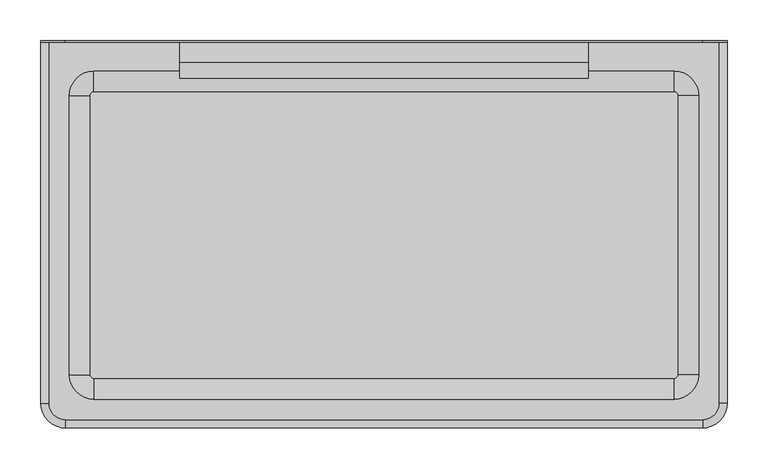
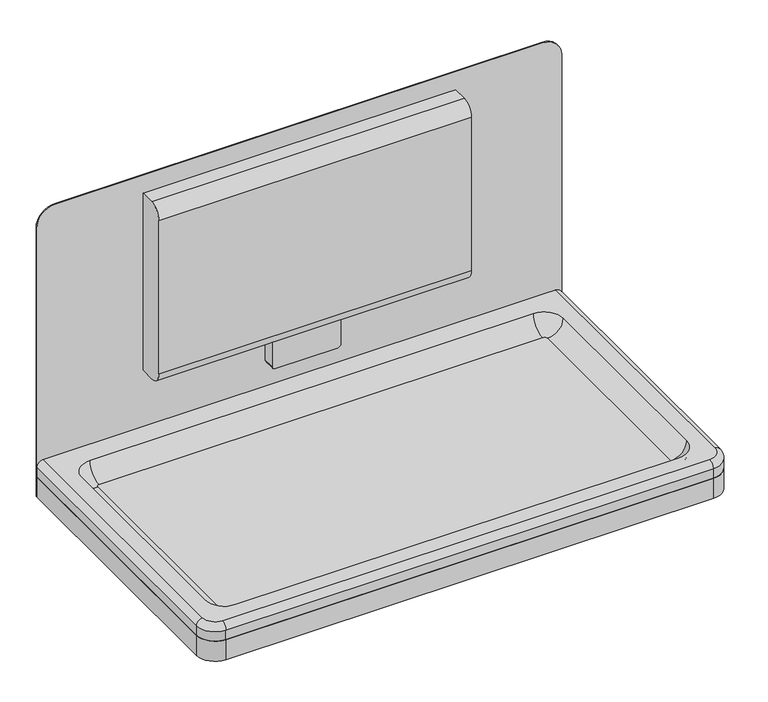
"""IFC4 building model written with IfcOpenShell, lengths in millimetres: proxy geometry, Baby Change Station_Metlam_Horizontal_Surface Mounted_Stainless Steel : 941w x 499d x 588h (ML_8200SM)."""

from ifc_helpers import new_model, si_unit, point, frame, frame_2d, origin, place, context, project, spatial, polyline, circle_curve, ellipse_curve, trimmed, segment, composite_curve, outline, extrude, source, transform, mapped, element, save
from ifc_brep_helpers import plane_surface, cylinder_surface, revolved_surface, advanced_brep


def specialty_equipment_f52764ad(model_context):
    return source(origin(), model_context, "Body", "SolidModel", [
        extrude(outline(composite_curve([segment(polyline([(1175.0, -420.0), (720.0, -420.0), (720.0, 420.0), (1175.0, 420.0)]), True, "CONTINUOUS"), segment(trimmed(circle_curve(frame_2d((1175.0, 390.0)), 30.0), [point((1175.0, 420.0))], [point((1205.0, 390.0))], False, "CARTESIAN"), True, "CONTINUOUS"), segment(polyline([(1205.0, 390.0), (1205.0, -390.0)]), True, "CONTINUOUS"), segment(trimmed(circle_curve(frame_2d((1175.0, -390.0)), 30.0), [point((1205.0, -390.0))], [point((1175.0, -420.0))], False, "CARTESIAN"), True, "CONTINUOUS")], self_intersect=False)), frame((0.0, -27.0, 0.0), z_axis=(0.0, 1.0, 0.0), x_axis=(0.0, 0.0, 1.0)), (0.0, 0.0, 1.0), 2.0),
        extrude(outline(composite_curve([segment(polyline([(420.0, -27.0), (420.0, -469.0)]), True, "CONTINUOUS"), segment(trimmed(circle_curve(frame_2d((390.0, -469.0)), 30.0), [point((420.0, -469.0))], [point((390.0, -499.0))], False, "CARTESIAN"), True, "CONTINUOUS"), segment(polyline([(390.0, -499.0), (-390.0, -499.0)]), True, "CONTINUOUS"), segment(trimmed(circle_curve(frame_2d((-390.0, -469.0)), 30.0), [point((-390.0, -499.0))], [point((-420.0, -469.0))], False, "CARTESIAN"), True, "CONTINUOUS"), segment(polyline([(-420.0, -469.0), (-420.0, -27.0), (420.0, -27.0)]), True, "CONTINUOUS")], self_intersect=False)), frame((0.0, 0.0, 720.0), z_axis=(0.0, 0.0, 1.0), x_axis=(1.0, 0.0, 0.0)), (0.0, 0.0, 1.0), 34.0),
        advanced_brep(
        [(60.0, -47.0, 875.0), (-60.0, -47.0, 875.0), (-55.0, -47.0, 870.0), (-55.0, -47.0, 825.0), (-50.0, -47.0, 820.0), (50.0, -47.0, 820.0), (55.0, -47.0, 825.0), (55.0, -47.0, 870.0), (60.0, -27.0, 875.0), (55.0, -27.0, 870.0), (55.0, -27.0, 825.0), (50.0, -27.0, 820.0), (-50.0, -27.0, 820.0), (-55.0, -27.0, 825.0), (-55.0, -27.0, 870.0), (-60.0, -27.0, 875.0)],
        [
            (0, 1),
            (1, 2, circle_curve(frame((-60.0, -47.0, 870.0), z_axis=(0.0, 1.0, 0.0), x_axis=(1.0, 0.0, 0.0)), 5.0)),
            (2, 3),
            (3, 4, circle_curve(frame((-50.0, -47.0, 825.0), z_axis=(0.0, -1.0, 0.0), x_axis=(1.0, 0.0, 0.0)), 5.0)),
            (4, 5),
            (5, 6, circle_curve(frame((50.0, -47.0, 825.0), z_axis=(0.0, -1.0, 0.0), x_axis=(1.0, 0.0, 0.0)), 5.0)),
            (6, 7),
            (7, 0, circle_curve(frame((60.0, -47.0, 870.0), z_axis=(0.0, 1.0, 0.0), x_axis=(1.0, 0.0, 0.0)), 5.0)),
            (8, 9, circle_curve(frame((60.0, -27.0, 870.0), z_axis=(0.0, -1.0, 0.0), x_axis=(1.0, 0.0, 0.0)), 5.0)),
            (9, 10),
            (10, 11, circle_curve(frame((50.0, -27.0, 825.0), z_axis=(0.0, 1.0, 0.0), x_axis=(1.0, 0.0, 0.0)), 5.0)),
            (11, 12),
            (12, 13, circle_curve(frame((-50.0, -27.0, 825.0), z_axis=(0.0, 1.0, 0.0), x_axis=(1.0, 0.0, 0.0)), 5.0)),
            (13, 14),
            (14, 15, circle_curve(frame((-60.0, -27.0, 870.0), z_axis=(0.0, -1.0, 0.0), x_axis=(1.0, 0.0, 0.0)), 5.0)),
            (15, 8),
            (0, 8),
            (15, 1),
            (2, 14),
            (13, 3),
            (4, 12),
            (11, 5),
            (6, 10),
            (9, 7),
        ],
        [
            plane_surface(frame((-60.0, -47.0, 875.0), z_axis=(0.0, -1.0, 0.0), x_axis=(-1.0, 0.0, 0.0))),
            plane_surface(frame((-60.0, -27.0, 875.0), z_axis=(0.0, 1.0, 0.0), x_axis=(1.0, 0.0, 0.0))),
            plane_surface(frame((60.0, -47.0, 875.0), z_axis=(0.0, 0.0, 1.0), x_axis=(0.0, 1.0, 0.0))),
            plane_surface(frame((-55.0, -47.0, 870.0), z_axis=(-1.0, 0.0, 0.0), x_axis=(0.0, 1.0, 0.0))),
            plane_surface(frame((-50.0, -47.0, 820.0), z_axis=(0.0, 0.0, -1.0), x_axis=(0.0, 1.0, 0.0))),
            plane_surface(frame((55.0, -47.0, 825.0), z_axis=(1.0, 0.0, 0.0), x_axis=(0.0, 1.0, 0.0))),
            revolved_surface(polyline([(-55.0, -27.0, 870.0), (-55.0, -47.0, 870.0)]), (-60.0, -27.0, 870.0), (0.0, 1.0, 0.0)),
            revolved_surface(polyline([(65.0, -27.0, 870.0), (65.0, -47.0, 870.0)]), (60.0, -27.0, 870.0), (0.0, 1.0, 0.0)),
            cylinder_surface(frame((-50.0, -27.0, 825.0), z_axis=(0.0, -1.0, 0.0), x_axis=(1.0, 0.0, 0.0)), 5.0),
            cylinder_surface(frame((50.0, -27.0, 825.0), z_axis=(0.0, -1.0, 0.0), x_axis=(1.0, 0.0, 0.0)), 5.0),
        ],
        [
            (0, [[1, 2, 3, 4, 5, 6, 7, 8]]),
            (1, [[9, 10, 11, 12, 13, 14, 15, 16]]),
            (2, [[-1, 17, -16, 18]]),
            (3, [[-3, 19, -14, 20]]),
            (4, [[-5, 21, -12, 22]]),
            (5, [[-7, 23, -10, 24]]),
            (6, [[-2, -18, -15, -19]]),
            (7, [[-8, -24, -9, -17]]),
            (8, [[-4, -20, -13, -21]]),
            (9, [[-6, -22, -11, -23]]),
        ],
    ),
        extrude(outline(composite_curve([segment(polyline([(-27.0, 1175.0), (-27.0, 875.0), (-51.0, 875.0)]), True, "CONTINUOUS"), segment(trimmed(circle_curve(frame_2d((-51.0, 895.0)), 20.0), [point((-51.0, 875.0))], [point((-71.0, 895.0))], False, "CARTESIAN"), True, "CONTINUOUS"), segment(polyline([(-71.0, 895.0), (-71.0, 1155.0)]), True, "CONTINUOUS"), segment(trimmed(circle_curve(frame_2d((-51.0, 1155.0)), 20.0), [point((-71.0, 1155.0))], [point((-51.0, 1175.0))], False, "CARTESIAN"), True, "CONTINUOUS"), segment(polyline([(-51.0, 1175.0), (-27.0, 1175.0)]), True, "CONTINUOUS")], self_intersect=False)), frame((-250.0, 0.0, 0.0), z_axis=(1.0, 0.0, 0.0), x_axis=(0.0, 1.0, 0.0)), (0.0, 0.0, 1.0), 500.0),
        advanced_brep(
        [(410.0, -27.0, 780.0), (-410.0, -27.0, 780.0), (-410.0, -469.0, 780.0), (-390.0, -489.0, 780.0), (390.0, -489.0, 780.0), (410.0, -469.0, 780.0), (385.0367705, -434.0, 780.0), (355.0, -464.0367705, 780.0), (-355.0, -464.0367705, 780.0), (-385.0367705, -434.0, 780.0), (-385.0367705, -92.0, 780.0), (-355.0, -61.9632295, 780.0), (355.0, -61.9632295, 780.0), (385.0367705, -92.0, 780.0), (420.0, -27.0, 754.0), (420.0, -469.0, 754.0), (390.0, -499.0, 754.0), (-390.0, -499.0, 754.0), (-420.0, -469.0, 754.0), (-420.0, -27.0, 754.0), (-420.0, -27.0, 770.0), (420.0, -27.0, 770.0), (-420.0, -469.0, 770.0), (390.0, -499.0, 770.0), (-390.0, -499.0, 770.0), (420.0, -469.0, 770.0), (360.0367705, -434.0, 755.0), (355.0, -439.0367705, 755.0), (360.0367705, -92.0, 755.0), (355.0, -86.9632295, 755.0), (-355.0, -86.9632295, 755.0), (-360.0367705, -92.0, 755.0), (-360.0367705, -434.0, 755.0), (-355.0, -439.0367705, 755.0)],
        [
            (0, 1),
            (1, 2),
            (2, 3, circle_curve(frame((-390.0, -469.0, 780.0), z_axis=(0.0, 0.0, 1.0), x_axis=(-1.0, 0.0, 0.0)), 20.0)),
            (3, 4),
            (4, 5, circle_curve(frame((390.0, -469.0, 780.0), z_axis=(0.0, 0.0, 1.0), x_axis=(0.0, -1.0, 0.0)), 20.0)),
            (5, 0),
            (6, 7, circle_curve(frame((355.0, -434.0, 780.0), z_axis=(0.0, 0.0, -1.0), x_axis=(0.0, -1.0, 0.0)), 30.0367705)),
            (7, 8),
            (8, 9, circle_curve(frame((-355.0, -434.0, 780.0), z_axis=(0.0, 0.0, -1.0), x_axis=(-1.0, 0.0, 0.0)), 30.0367705)),
            (9, 10),
            (10, 11, circle_curve(frame((-355.0, -92.0, 780.0), z_axis=(0.0, 0.0, -1.0), x_axis=(0.0, 1.0, 0.0)), 30.0367705)),
            (11, 12),
            (12, 13, circle_curve(frame((355.0, -92.0, 780.0), z_axis=(0.0, 0.0, -1.0), x_axis=(1.0, 0.0, 0.0)), 30.0367705)),
            (13, 6),
            (14, 15),
            (15, 16, circle_curve(frame((390.0, -469.0, 754.0), z_axis=(0.0, 0.0, -1.0), x_axis=(0.0, -1.0, 0.0)), 30.0)),
            (16, 17),
            (17, 18, circle_curve(frame((-390.0, -469.0, 754.0), z_axis=(0.0, 0.0, -1.0), x_axis=(0.0, -1.0, 0.0)), 30.0)),
            (18, 19),
            (19, 14),
            (19, 20),
            (20, 1, circle_curve(frame((-410.0, -27.0, 770.0), z_axis=(0.0, 1.0, 0.0), x_axis=(1.0, 0.0, 0.0)), 10.0)),
            (0, 21, circle_curve(frame((410.0, -27.0, 770.0), z_axis=(0.0, 1.0, 0.0), x_axis=(-1.0, 0.0, 0.0)), 10.0)),
            (21, 14),
            (18, 22),
            (22, 20),
            (16, 23),
            (23, 24),
            (24, 17),
            (21, 25),
            (25, 15),
            (24, 22, circle_curve(frame((-390.0, -469.0, 770.0), z_axis=(0.0, 0.0, -1.0), x_axis=(0.0, -1.0, 0.0)), 30.0)),
            (25, 23, circle_curve(frame((390.0, -469.0, 770.0), z_axis=(0.0, 0.0, -1.0), x_axis=(0.0, -1.0, 0.0)), 30.0)),
            (6, 26, circle_curve(frame((360.0367705, -434.0, 780.0), z_axis=(0.0, 1.0, 0.0), x_axis=(-1.0, 0.0, 0.0)), 25.0)),
            (26, 27, circle_curve(frame((355.0, -434.0, 755.0), z_axis=(0.0, 0.0, -1.0), x_axis=(0.0, -1.0, 0.0)), 5.0367705)),
            (27, 7, circle_curve(frame((355.0, -439.0367705, 780.0), z_axis=(-1.0, 0.0, 0.0), x_axis=(0.0, 1.0, 0.0)), 25.0)),
            (13, 28, circle_curve(frame((360.0367705, -92.0, 780.0), z_axis=(0.0, 1.0, 0.0), x_axis=(-1.0, 0.0, 0.0)), 25.0)),
            (28, 26),
            (12, 29, circle_curve(frame((355.0, -86.9632295, 780.0), z_axis=(-1.0, 0.0, 0.0), x_axis=(0.0, -1.0, 0.0)), 25.0)),
            (29, 28, circle_curve(frame((355.0, -92.0, 755.0), z_axis=(0.0, 0.0, -1.0), x_axis=(1.0, 0.0, 0.0)), 5.0367705)),
            (11, 30, circle_curve(frame((-355.0, -86.9632295, 780.0), z_axis=(-1.0, 0.0, 0.0), x_axis=(0.0, -1.0, 0.0)), 25.0)),
            (30, 29),
            (10, 31, circle_curve(frame((-360.0367705, -92.0, 780.0), z_axis=(0.0, -1.0, 0.0), x_axis=(1.0, 0.0, 0.0)), 25.0)),
            (31, 30, circle_curve(frame((-355.0, -92.0, 755.0), z_axis=(0.0, 0.0, -1.0), x_axis=(0.0, 1.0, 0.0)), 5.0367705)),
            (9, 32, circle_curve(frame((-360.0367705, -434.0, 780.0), z_axis=(0.0, -1.0, 0.0), x_axis=(1.0, 0.0, 0.0)), 25.0)),
            (32, 31),
            (8, 33, circle_curve(frame((-355.0, -439.0367705, 780.0), z_axis=(1.0, 0.0, 0.0), x_axis=(0.0, 1.0, 0.0)), 25.0)),
            (33, 32, circle_curve(frame((-355.0, -434.0, 755.0), z_axis=(0.0, 0.0, -1.0), x_axis=(-1.0, 0.0, 0.0)), 5.0367705)),
            (27, 33),
            (22, 2, circle_curve(frame((-410.0, -469.0, 770.0), z_axis=(0.0, 1.0, 0.0), x_axis=(1.0, 0.0, 0.0)), 10.0)),
            (24, 3, circle_curve(frame((-390.0, -489.0, 770.0), z_axis=(-1.0, 0.0, 0.0), x_axis=(0.0, 1.0, 0.0)), 10.0)),
            (23, 4, circle_curve(frame((390.0, -489.0, 770.0), z_axis=(-1.0, 0.0, 0.0), x_axis=(0.0, 1.0, 0.0)), 10.0)),
            (25, 5, circle_curve(frame((410.0, -469.0, 770.0), z_axis=(0.0, -1.0, 0.0), x_axis=(-1.0, 0.0, 0.0)), 10.0)),
        ],
        [
            plane_surface(frame((-420.0, -27.0, 780.0), z_axis=(0.0, 0.0, 1.0), x_axis=(-1.0, 0.0, 0.0))),
            plane_surface(frame((-420.0, -27.0, 754.0), z_axis=(0.0, 0.0, -1.0), x_axis=(1.0, 0.0, 0.0))),
            plane_surface(frame((420.0, -27.0, 780.0), z_axis=(0.0, 1.0, 0.0), x_axis=(0.0, 0.0, -1.0))),
            plane_surface(frame((-420.0, -27.0, 780.0), z_axis=(-1.0, 0.0, 0.0), x_axis=(0.0, 0.0, -1.0))),
            plane_surface(frame((-390.0, -499.0, 780.0), z_axis=(0.0, -1.0, 0.0), x_axis=(0.0, 0.0, -1.0))),
            plane_surface(frame((420.0, -469.0, 780.0), z_axis=(1.0, 0.0, 0.0), x_axis=(0.0, 0.0, -1.0))),
            cylinder_surface(frame((-390.0, -469.0, 754.0), z_axis=(0.0, 0.0, 1.0), x_axis=(0.0, -1.0, 0.0)), 30.0),
            cylinder_surface(frame((390.0, -469.0, 754.0), z_axis=(0.0, 0.0, 1.0), x_axis=(0.0, -1.0, 0.0)), 30.0),
            revolved_surface(trimmed(ellipse_curve(frame((355.0, -439.0367705, 780.0), z_axis=(1.0, 0.0, 0.0), x_axis=(0.0, 1.0, 0.0)), 25.0, 25.0), [point((355.0, -464.0367705, 780.0))], [point((355.0, -439.0367705, 755.0))], True, "CARTESIAN"), (355.0, -434.0, 720.0), (0.0, 0.0, 1.0)),
            revolved_surface(polyline([(335.0367705, -434.0, 780.0), (335.0367705, -92.0, 780.0)]), (360.0367705, -434.0, 780.0), (0.0, -1.0, 0.0)),
            revolved_surface(trimmed(ellipse_curve(frame((360.0367705, -92.0, 780.0), z_axis=(0.0, 1.0, 0.0), x_axis=(-1.0, 0.0, 0.0)), 25.0, 25.0), [point((385.0367705, -92.0, 780.0))], [point((360.0367705, -92.0, 755.0))], True, "CARTESIAN"), (355.0, -92.0, 720.0), (0.0, 0.0, 1.0)),
            revolved_surface(polyline([(355.0, -111.9632295, 780.0), (-355.0, -111.9632295, 780.0)]), (355.0, -86.9632295, 780.0), (1.0, 0.0, 0.0)),
            revolved_surface(trimmed(ellipse_curve(frame((-355.0, -86.9632295, 780.0), z_axis=(-1.0, 0.0, 0.0), x_axis=(0.0, -1.0, 0.0)), 25.0, 25.0), [point((-355.0, -61.9632295, 780.0))], [point((-355.0, -86.9632295, 755.0))], True, "CARTESIAN"), (-355.0, -92.0, 720.0), (0.0, 0.0, 1.0)),
            revolved_surface(polyline([(-335.0367705, -92.0, 780.0), (-335.0367705, -434.0, 780.0)]), (-360.0367705, -92.0, 780.0), (0.0, 1.0, 0.0)),
            revolved_surface(trimmed(ellipse_curve(frame((-360.0367705, -434.0, 780.0), z_axis=(0.0, -1.0, 0.0), x_axis=(1.0, 0.0, 0.0)), 25.0, 25.0), [point((-385.0367705, -434.0, 780.0))], [point((-360.0367705, -434.0, 755.0))], True, "CARTESIAN"), (-355.0, -434.0, 720.0), (0.0, 0.0, 1.0)),
            revolved_surface(polyline([(-355.0, -414.0367705, 780.0), (355.0, -414.0367705, 780.0)]), (-355.0, -439.0367705, 780.0), (-1.0, 0.0, 0.0)),
            cylinder_surface(frame((-410.0, -27.0, 770.0), z_axis=(0.0, -1.0, 0.0), x_axis=(1.0, 0.0, 0.0)), 10.0),
            revolved_surface(trimmed(ellipse_curve(frame((-410.0, -469.0, 770.0), z_axis=(0.0, 1.0, 0.0), x_axis=(1.0, 0.0, 0.0)), 10.0, 10.0), [point((-420.0, -469.0, 770.0))], [point((-410.0, -469.0, 780.0))], True, "CARTESIAN"), (-390.0, -469.0, 780.0), (0.0, 0.0, 1.0)),
            cylinder_surface(frame((-390.0, -489.0, 770.0), z_axis=(1.0, 0.0, 0.0), x_axis=(0.0, 1.0, 0.0)), 10.0),
            revolved_surface(trimmed(ellipse_curve(frame((390.0, -489.0, 770.0), z_axis=(-1.0, 0.0, 0.0), x_axis=(0.0, 1.0, 0.0)), 10.0, 10.0), [point((390.0, -499.0, 770.0))], [point((390.0, -489.0, 780.0))], True, "CARTESIAN"), (390.0, -469.0, 780.0), (0.0, 0.0, 1.0)),
            cylinder_surface(frame((410.0, -469.0, 770.0), z_axis=(0.0, 1.0, 0.0), x_axis=(-1.0, 0.0, 0.0)), 10.0),
            plane_surface(frame((-355.0, -439.0367705, 755.0), z_axis=(0.0, 0.0, 1.0), x_axis=(-1.0, 0.0, 0.0))),
        ],
        [
            (0, [[1, 2, 3, 4, 5, 6], [7, 8, 9, 10, 11, 12, 13, 14]]),
            (1, [[15, 16, 17, 18, 19, 20]]),
            (2, [[-20, 21, 22, -1, 23, 24]]),
            (3, [[-19, 25, 26, -21]]),
            (4, [[-17, 27, 28, 29]]),
            (5, [[-15, -24, 30, 31]]),
            (6, [[-18, -29, 32, -25]]),
            (7, [[-16, -31, 33, -27]]),
            (8, [[34, 35, 36, -7]]),
            (9, [[-34, -14, 37, 38]]),
            (10, [[-37, -13, 39, 40]]),
            (11, [[-39, -12, 41, 42]]),
            (12, [[-41, -11, 43, 44]]),
            (13, [[-43, -10, 45, 46]]),
            (14, [[-45, -9, 47, 48]]),
            (15, [[-36, 49, -47, -8]]),
            (16, [[50, -2, -22, -26]]),
            (17, [[-50, -32, 51, -3]]),
            (18, [[-51, -28, 52, -4]]),
            (19, [[-52, -33, 53, -5]]),
            (20, [[-53, -30, -23, -6]]),
            (21, [[-35, -38, -40, -42, -44, -46, -48, -49]]),
        ],
    ),
    ])


if __name__ == "__main__":
    model = new_model("IFC4")
    model_context = context("Model", 3, world=origin())
    ifc_project = project(units=[si_unit("LENGTHUNIT", "METRE", prefix="MILLI")], contexts=[model_context])
    site = spatial("IfcSite", under=ifc_project)
    building = spatial("IfcBuilding", under=site)
    placement = place(None, origin())
    specialty_equipment_shape = specialty_equipment_f52764ad(model_context)
    element("IfcBuildingElementProxy", 1, Name="Baby Change Station_Metlam_Horizontal_Surface Mounted_Stainless Steel : 941w x 499d x 588h (ML_8200SM)", ObjectType="Baby Change Station_Metlam_Horizontal_Surface Mounted_Stainless Steel : 941w x 499d x 588h (ML_8200SM)", at=placement, inside=building, context=model_context, shape_type="MappedRepresentation", body=[
        mapped(specialty_equipment_shape, transform((0.0, 0.0, 0.0), x_axis=(1.0, 0.0, 0.0), y_axis=(0.0, 1.0, 0.0), z_axis=(0.0, 0.0, 1.0))),
    ])
    save(model, "model.ifc")
